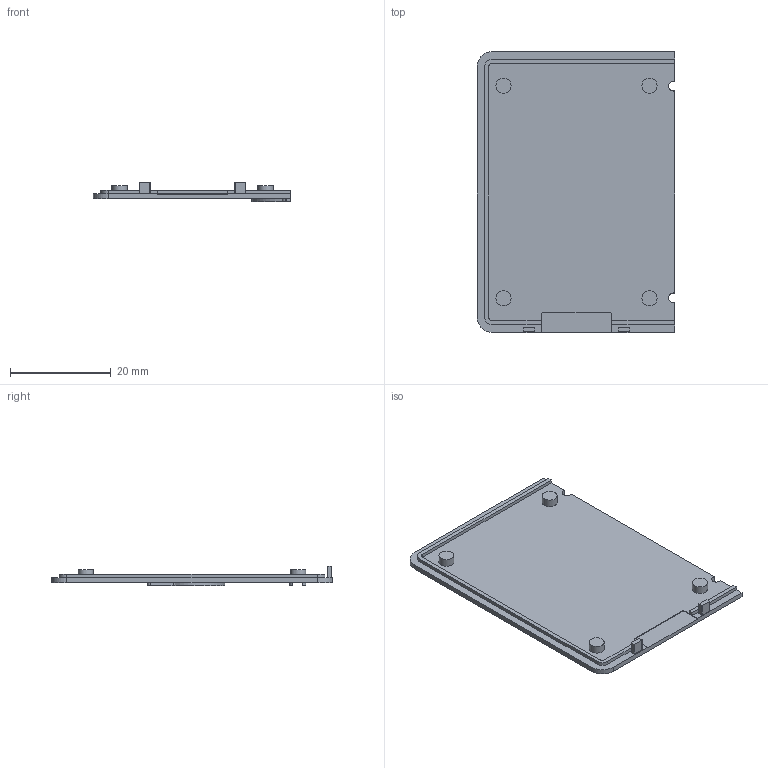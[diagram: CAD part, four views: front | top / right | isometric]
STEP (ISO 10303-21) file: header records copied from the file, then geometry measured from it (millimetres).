
FILE_DESCRIPTION(('Open CASCADE Model'),'2;1');
FILE_NAME('Open CASCADE Shape Model','2026-11-21T21:44:34',('Author'),( 'Open CASCADE'),'Open CASCADE STEP processor 7.9','Open CASCADE 7.9' ,'Unknown');
FILE_SCHEMA(('AUTOMOTIVE_DESIGN { 1 0 10303 214 1 1 1 1 }'));
Length unit declared in the file: millimetre
Products named in the file (1): Open CASCADE STEP translator 7.9 7
Bounding box: 39.2 x 55.8 x 3.95 mm (x, y, z)
Volume: 2316.9 mm3; surface area: 4850.3 mm2
Topology: 1 solids, 1 shells, 90 faces, 231 edges, 154 vertices
Faces by surface type: plane 54, cylinder 31, extrusion 5
Full cylindrical faces by diameter (mm): 1.1 x1, 1.4 x1, 3 x4
Entity records: 5982 total; most frequent: CARTESIAN_POINT 1352, DIRECTION 873, VECTOR 524, LINE 519, ORIENTED_EDGE 462, PCURVE 462, DEFINITIONAL_REPRESENTATION 462, EDGE_CURVE 231
